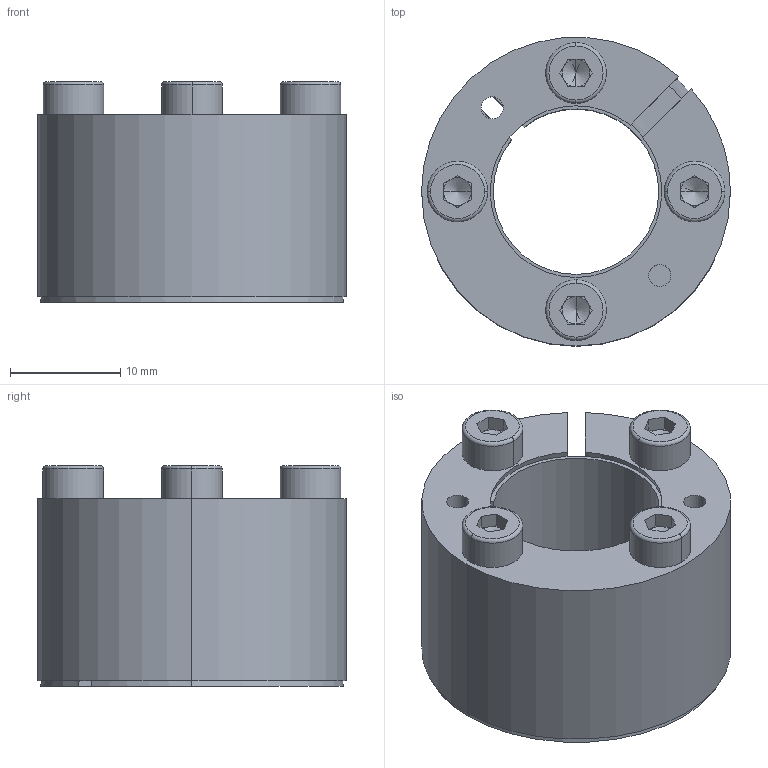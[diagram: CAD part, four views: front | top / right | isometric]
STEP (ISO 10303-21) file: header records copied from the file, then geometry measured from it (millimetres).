
FILE_DESCRIPTION (( 'STEP AP214' ), '1' );
FILE_NAME ('CONEX-K-15x28.step', '2013-04-06T13:20:33', ( 'Pc' ), ( '' ), 'SwSTEP 2.0', 'SolidWorks 2013', '' );
FILE_SCHEMA (( 'AUTOMOTIVE_DESIGN' ));
Length unit declared in the file: millimetre
Products named in the file (1): CONEX-K-15x28
Bounding box: 28 x 27.96 x 20.01 mm (x, y, z)
Volume: 6086.6 mm3; surface area: 7328.7 mm2
Topology: 6 solids, 6 shells, 162 faces, 378 edges, 228 vertices
Faces by surface type: plane 70, cylinder 48, cone 28, torus 16
Entity records: 6473 total; most frequent: DIRECTION 866, CARTESIAN_POINT 785, ORIENTED_EDGE 740, EDGE_CURVE 370, AXIS2_PLACEMENT_3D 341, VERTEX_POINT 228, EDGE_LOOP 190, LINE 184
